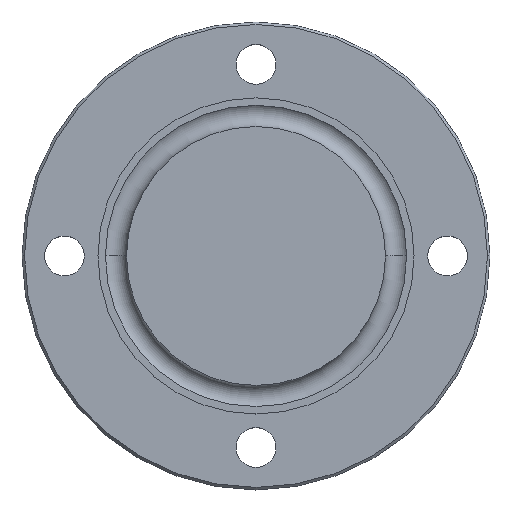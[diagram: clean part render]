
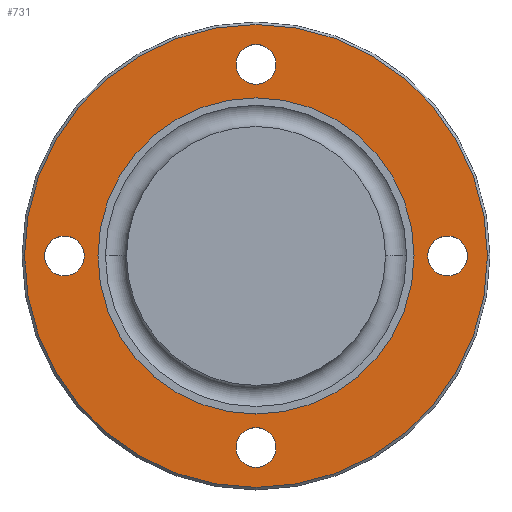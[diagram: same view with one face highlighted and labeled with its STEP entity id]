
A CAD part, top view. The second image highlights one B-rep face of the part: STEP entity #731.
In plain terms, the highlighted planar face has unit normal (0, 0, 1).
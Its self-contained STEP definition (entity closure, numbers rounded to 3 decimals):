
#1 = CIRCLE ( 'NONE', #413, 46.5 ) ;
#6 = DIRECTION ( 'NONE',  ( 0., 0., 1. ) ) ;
#7 = EDGE_CURVE ( 'NONE', #42, #369, #127, .T. ) ;
#10 = CARTESIAN_POINT ( 'NONE',  ( 0., 0., 10. ) ) ;
#13 = CARTESIAN_POINT ( 'NONE',  ( 0., 0., 10. ) ) ;
#30 = CIRCLE ( 'NONE', #137, 4. ) ;
#32 = VERTEX_POINT ( 'NONE', #232 ) ;
#42 = VERTEX_POINT ( 'NONE', #338 ) ;
#64 = CIRCLE ( 'NONE', #537, 4. ) ;
#65 = DIRECTION ( 'NONE',  ( 0., 0., -1. ) ) ;
#67 = EDGE_CURVE ( 'NONE', #724, #32, #475, .T. ) ;
#68 = CARTESIAN_POINT ( 'NONE',  ( 46.5, 0., 10. ) ) ;
#71 = DIRECTION ( 'NONE',  ( -1., 0., 0. ) ) ;
#74 = CIRCLE ( 'NONE', #243, 4. ) ;
#82 = EDGE_LOOP ( 'NONE', ( #363, #419 ) ) ;
#96 = AXIS2_PLACEMENT_3D ( 'NONE', #281, #521, #342 ) ;
#102 = ORIENTED_EDGE ( 'NONE', *, *, #254, .F. ) ;
#114 = CARTESIAN_POINT ( 'NONE',  ( 0., 38.5, 10. ) ) ;
#127 = CIRCLE ( 'NONE', #544, 31.75 ) ;
#128 = CIRCLE ( 'NONE', #513, 46.5 ) ;
#130 = FACE_BOUND ( 'NONE', #721, .T. ) ;
#132 = DIRECTION ( 'NONE',  ( 1., 0., 0. ) ) ;
#133 = VERTEX_POINT ( 'NONE', #711 ) ;
#137 = AXIS2_PLACEMENT_3D ( 'NONE', #638, #578, #71 ) ;
#149 = CIRCLE ( 'NONE', #425, 4. ) ;
#151 = ORIENTED_EDGE ( 'NONE', *, *, #588, .F. ) ;
#153 = EDGE_LOOP ( 'NONE', ( #331, #157 ) ) ;
#157 = ORIENTED_EDGE ( 'NONE', *, *, #685, .T. ) ;
#159 = DIRECTION ( 'NONE',  ( 0., -1., 0. ) ) ;
#165 = CARTESIAN_POINT ( 'NONE',  ( 31.75, 0., 10. ) ) ;
#171 = CARTESIAN_POINT ( 'NONE',  ( -4., 38.5, 10. ) ) ;
#188 = DIRECTION ( 'NONE',  ( 1., 0., 0. ) ) ;
#190 = DIRECTION ( 'NONE',  ( 0., -1., 0. ) ) ;
#198 = VERTEX_POINT ( 'NONE', #449 ) ;
#203 = ORIENTED_EDGE ( 'NONE', *, *, #315, .F. ) ;
#217 = VERTEX_POINT ( 'NONE', #171 ) ;
#220 = DIRECTION ( 'NONE',  ( 0., 0., 1. ) ) ;
#222 = DIRECTION ( 'NONE',  ( 0., 0., 1. ) ) ;
#230 = CARTESIAN_POINT ( 'NONE',  ( -38.5, 4., 10. ) ) ;
#232 = CARTESIAN_POINT ( 'NONE',  ( -38.5, -4., 10. ) ) ;
#235 = EDGE_CURVE ( 'NONE', #133, #608, #259, .T. ) ;
#240 = DIRECTION ( 'NONE',  ( 0., 0., 1. ) ) ;
#243 = AXIS2_PLACEMENT_3D ( 'NONE', #114, #220, #440 ) ;
#254 = EDGE_CURVE ( 'NONE', #660, #529, #549, .T. ) ;
#259 = CIRCLE ( 'NONE', #677, 4. ) ;
#260 = ORIENTED_EDGE ( 'NONE', *, *, #67, .F. ) ;
#278 = VERTEX_POINT ( 'NONE', #600 ) ;
#281 = CARTESIAN_POINT ( 'NONE',  ( 0., -38.5, 10. ) ) ;
#289 = CIRCLE ( 'NONE', #476, 31.75 ) ;
#299 = FACE_BOUND ( 'NONE', #593, .T. ) ;
#303 = CARTESIAN_POINT ( 'NONE',  ( 0., 46.5, 10. ) ) ;
#308 = EDGE_CURVE ( 'NONE', #608, #133, #64, .T. ) ;
#311 = ORIENTED_EDGE ( 'NONE', *, *, #235, .F. ) ;
#312 = AXIS2_PLACEMENT_3D ( 'NONE', #303, #65, #624 ) ;
#315 = EDGE_CURVE ( 'NONE', #278, #217, #484, .T. ) ;
#316 = EDGE_CURVE ( 'NONE', #529, #660, #30, .T. ) ;
#331 = ORIENTED_EDGE ( 'NONE', *, *, #348, .T. ) ;
#338 = CARTESIAN_POINT ( 'NONE',  ( -31.75, 0., 10. ) ) ;
#342 = DIRECTION ( 'NONE',  ( -1., 0., 0. ) ) ;
#343 = DIRECTION ( 'NONE',  ( 0., 0., 1. ) ) ;
#348 = EDGE_CURVE ( 'NONE', #198, #545, #1, .T. ) ;
#353 = FACE_OUTER_BOUND ( 'NONE', #153, .T. ) ;
#358 = AXIS2_PLACEMENT_3D ( 'NONE', #510, #563, #681 ) ;
#360 = EDGE_CURVE ( 'NONE', #217, #278, #74, .T. ) ;
#363 = ORIENTED_EDGE ( 'NONE', *, *, #703, .F. ) ;
#369 = VERTEX_POINT ( 'NONE', #165 ) ;
#371 = ORIENTED_EDGE ( 'NONE', *, *, #360, .F. ) ;
#387 = ORIENTED_EDGE ( 'NONE', *, *, #316, .F. ) ;
#398 = DIRECTION ( 'NONE',  ( 1., 0., 0. ) ) ;
#404 = PLANE ( 'NONE',  #312 ) ;
#406 = CARTESIAN_POINT ( 'NONE',  ( -4., -38.5, 10. ) ) ;
#407 = FACE_BOUND ( 'NONE', #82, .T. ) ;
#408 = CARTESIAN_POINT ( 'NONE',  ( 0., 38.5, 10. ) ) ;
#409 = CARTESIAN_POINT ( 'NONE',  ( 38.5, 0., 10. ) ) ;
#413 = AXIS2_PLACEMENT_3D ( 'NONE', #496, #729, #616 ) ;
#419 = ORIENTED_EDGE ( 'NONE', *, *, #7, .F. ) ;
#425 = AXIS2_PLACEMENT_3D ( 'NONE', #679, #222, #450 ) ;
#429 = EDGE_LOOP ( 'NONE', ( #203, #371 ) ) ;
#440 = DIRECTION ( 'NONE',  ( 1., 0., 0. ) ) ;
#441 = CARTESIAN_POINT ( 'NONE',  ( 0., 0., 10. ) ) ;
#449 = CARTESIAN_POINT ( 'NONE',  ( -46.5, 0., 10. ) ) ;
#450 = DIRECTION ( 'NONE',  ( 0., 1., 0. ) ) ;
#461 = FACE_BOUND ( 'NONE', #527, .T. ) ;
#466 = DIRECTION ( 'NONE',  ( 1., 0., 0. ) ) ;
#475 = CIRCLE ( 'NONE', #358, 4. ) ;
#476 = AXIS2_PLACEMENT_3D ( 'NONE', #13, #343, #466 ) ;
#484 = CIRCLE ( 'NONE', #674, 4. ) ;
#496 = CARTESIAN_POINT ( 'NONE',  ( 0., 0., 10. ) ) ;
#508 = CARTESIAN_POINT ( 'NONE',  ( 38.5, 4., 10. ) ) ;
#510 = CARTESIAN_POINT ( 'NONE',  ( -38.5, 0., 10. ) ) ;
#513 = AXIS2_PLACEMENT_3D ( 'NONE', #10, #6, #188 ) ;
#521 = DIRECTION ( 'NONE',  ( 0., 0., 1. ) ) ;
#527 = EDGE_LOOP ( 'NONE', ( #387, #102 ) ) ;
#529 = VERTEX_POINT ( 'NONE', #406 ) ;
#537 = AXIS2_PLACEMENT_3D ( 'NONE', #409, #240, #190 ) ;
#544 = AXIS2_PLACEMENT_3D ( 'NONE', #441, #667, #398 ) ;
#545 = VERTEX_POINT ( 'NONE', #68 ) ;
#549 = CIRCLE ( 'NONE', #96, 4. ) ;
#563 = DIRECTION ( 'NONE',  ( 0., 0., 1. ) ) ;
#578 = DIRECTION ( 'NONE',  ( 0., 0., 1. ) ) ;
#588 = EDGE_CURVE ( 'NONE', #32, #724, #149, .T. ) ;
#593 = EDGE_LOOP ( 'NONE', ( #311, #713 ) ) ;
#600 = CARTESIAN_POINT ( 'NONE',  ( 4., 38.5, 10. ) ) ;
#608 = VERTEX_POINT ( 'NONE', #508 ) ;
#615 = CARTESIAN_POINT ( 'NONE',  ( 4., -38.5, 10. ) ) ;
#616 = DIRECTION ( 'NONE',  ( 1., 0., 0. ) ) ;
#624 = DIRECTION ( 'NONE',  ( -1., 0., 0. ) ) ;
#635 = DIRECTION ( 'NONE',  ( 0., 0., 1. ) ) ;
#638 = CARTESIAN_POINT ( 'NONE',  ( 0., -38.5, 10. ) ) ;
#656 = DIRECTION ( 'NONE',  ( 0., 0., 1. ) ) ;
#660 = VERTEX_POINT ( 'NONE', #615 ) ;
#667 = DIRECTION ( 'NONE',  ( 0., 0., 1. ) ) ;
#674 = AXIS2_PLACEMENT_3D ( 'NONE', #408, #635, #132 ) ;
#677 = AXIS2_PLACEMENT_3D ( 'NONE', #715, #656, #159 ) ;
#679 = CARTESIAN_POINT ( 'NONE',  ( -38.5, 0., 10. ) ) ;
#681 = DIRECTION ( 'NONE',  ( 0., 1., 0. ) ) ;
#685 = EDGE_CURVE ( 'NONE', #545, #198, #128, .T. ) ;
#688 = FACE_BOUND ( 'NONE', #429, .T. ) ;
#703 = EDGE_CURVE ( 'NONE', #369, #42, #289, .T. ) ;
#711 = CARTESIAN_POINT ( 'NONE',  ( 38.5, -4., 10. ) ) ;
#713 = ORIENTED_EDGE ( 'NONE', *, *, #308, .F. ) ;
#715 = CARTESIAN_POINT ( 'NONE',  ( 38.5, 0., 10. ) ) ;
#721 = EDGE_LOOP ( 'NONE', ( #260, #151 ) ) ;
#724 = VERTEX_POINT ( 'NONE', #230 ) ;
#729 = DIRECTION ( 'NONE',  ( 0., 0., 1. ) ) ;
#731 = ADVANCED_FACE ( 'NONE', ( #130, #461, #299, #688, #407, #353 ), #404, .F. ) ;
